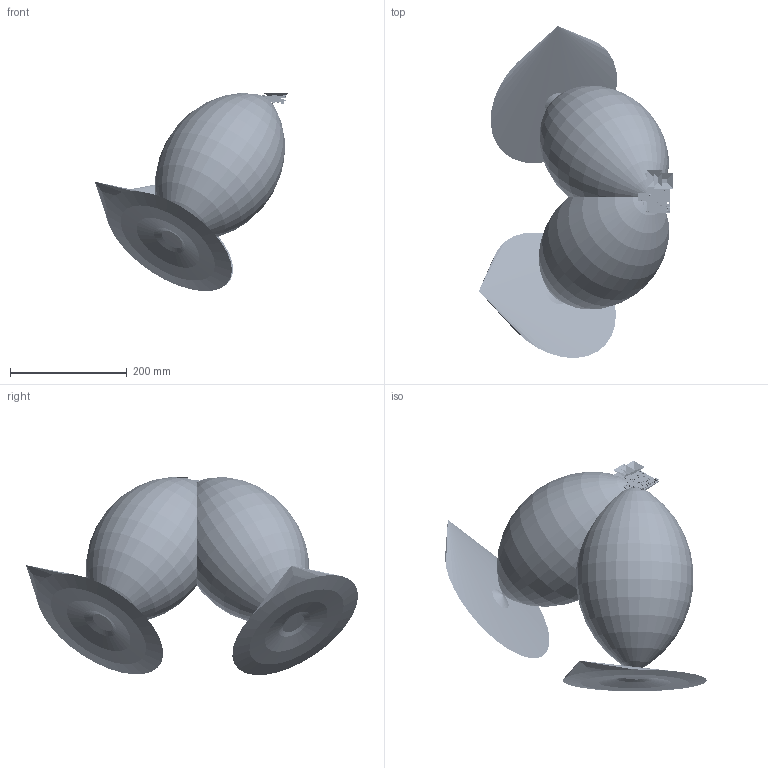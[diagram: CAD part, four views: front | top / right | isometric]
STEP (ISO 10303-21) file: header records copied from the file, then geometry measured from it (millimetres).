
FILE_DESCRIPTION(/* description */ ('STEP AP242 Edition 2','CAx-IF Rec.Pracs.---Representation and Presentation of Product Manufacturing Information (PMI)---4.0---2014-10-13','CAx-IF Rec.Pracs.---3D Tessellated Geometry---0.4---2014-09-14','2;1','CAx-IF Rec.Pracs.---User Defined Attributes---1.5---2016-08-15'),/* implementation_level */ '2;1');
FILE_NAME(/* name */ '6ad0f004ad769826ef326253',/* time_stamp */ '2026-10-15T15:24:43Z',/* author */ (''),/* organization */ (''),/* preprocessor_version */ 'ST-DEVELOPER v20',/* originating_system */ 'ONSHAPE BY PTC INC, 1.222',/* authorisation */ ' ');
FILE_SCHEMA (('AP242_MANAGED_MODEL_BASED_3D_ENGINEERING_MIM_LF { 1 0 10303 442 3 1 4 }'));
Length unit declared in the file: metre
Products named in the file (2816): Assembly; Assembly 1 <1>; Tx_FOV_60deg; Rx_FOV_60deg; Assembly 3 <1>; Open CASCADE STEP translator 6.8 11.2.1_10; logo_17; BOSCH logo; 1_1; logo_10; terminals_1; Logo; Open CASCADE STEP translator 6.8 11.2.1; logo_13; Mid_Body_14; Leader_2; Open CASCADE STEP translator 7.5 1.1.1; 612338848; logo_2; 612343264; CFP5_SOD128_NEX_1; Open CASCADE STEP translator 7.5 29.2.1_1; Mid_Body_4; Open CASCADE STEP translator 6.8 11.2.1_2; IC_Texas_Instruments_SN74AXC2T245RSWR_eec_2; Mid_Body_6; Open CASCADE STEP translator 7.5 29.2.1; 2; Mid_Body_12; 2_3; terminals_6; LEAD_DCU0008A_12; terminals_5; LEAD_DCU0008A_15; keystone-PN5001_1; logo_20; keystone-PN5001_3; Mark_2; logo; terminals_10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
Assembly tree (2815 placements, depth 3):
  Assembly
    Assembly 1 <1>
      Tx_FOV_60deg
      Rx_FOV_60deg
    Assembly 3 <1>
      Open CASCADE STEP translator 6.8 11.2.1_10
      logo_17
      BOSCH logo
      1_1
      logo_10
      terminals_1
      Logo
      Open CASCADE STEP translator 6.8 11.2.1
      logo_13
      Mid_Body_14
      Leader_2
      Open CASCADE STEP translator 7.5 1.1.1
      612338848
      logo_2
      612343264
      CFP5_SOD128_NEX_1
      Open CASCADE STEP translator 7.5 29.2.1_1
      612343264
      Mid_Body_4
      Open CASCADE STEP translator 6.8 11.2.1_2
      IC_Texas_Instruments_SN74AXC2T245RSWR_eec_2
      Mid_Body_6
      Open CASCADE STEP translator 7.5 29.2.1
      2
      Mid_Body_12
      2_3
      terminals_6
      LEAD_DCU0008A_12
      terminals_5
      LEAD_DCU0008A_15
      612343264
      keystone-PN5001_1
      logo_20
      keystone-PN5001_3
      612343264
      Mark_2
      logo
      terminals_10
      Extruded
      Mark_6
      IC_Texas_Instruments_SN74AXC2T245RSWR_eec
      IC_Texas_Instruments_SN74AXC2T245RSWR_eec_2
      Open CASCADE STEP translator 6.8 11.2.1_11
      logo_17
      TDK Logo
      logo_15
      body_16
      2
      612338848
      logo_20
      3_3
      Open CASCADE STEP translator 6.8 11.2.1_17
      3
      logo_16
      IC_Texas_Instruments_SN74AXC2T245RSWR_eec_1
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Bounding box: 332.94 x 568.67 x 339.29 mm (x, y, z)
Volume: 7779655.1 mm3; surface area: 532484.7 mm2
Topology: 2812 solids, 2812 shells, 44898 faces, 114896 edges, 74996 vertices
Faces by surface type: plane 31978, cylinder 10935, sphere 1316, torus 334, bspline 315, cone 20
Full cylindrical faces by diameter (mm): 0.13 x1, 0.15 x1, 0.199 x1, 0.2 x3, 0.229 x3, 0.25 x2, 0.254 x1, 0.3 x1, 0.345 x1, 0.395 x1, 0.4 x2, 0.487 x1, 0.6 x6, 0.85 x2, 0.889 x8, 1.016 x7, 1.02 x8, 1.194 x1, 1.6 x2, 2.032 x1, 2.5 x2, 2.54 x5, 3 x8, 3.2 x6
Entity records: 1432801 total; most frequent: CARTESIAN_POINT 262562, ORIENTED_EDGE 228114, DIRECTION 222203, EDGE_CURVE 114057, LINE 86515, VECTOR 86515, VERTEX_POINT 74660, AXIS2_PLACEMENT_3D 67844
